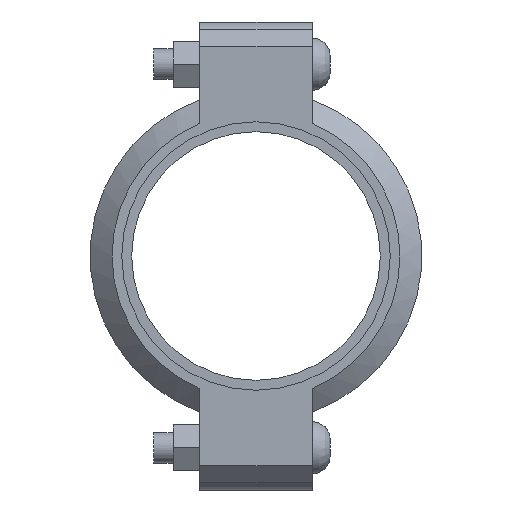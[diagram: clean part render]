
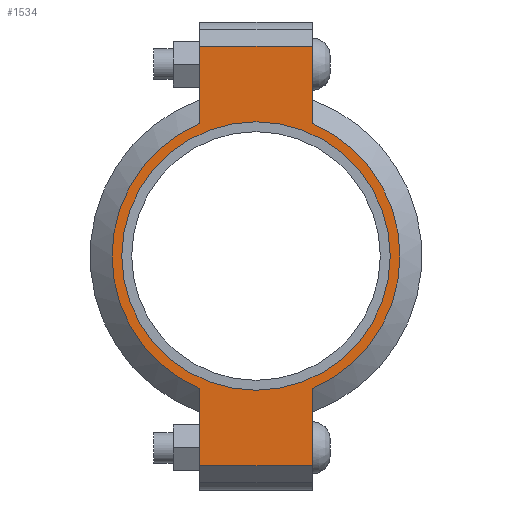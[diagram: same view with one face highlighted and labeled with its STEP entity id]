
A CAD part, left-side view. The second image highlights one B-rep face of the part: STEP entity #1534.
In plain terms, the highlighted planar face has unit normal (-1, 0, 0) as drawn and (0, 0, 1) by its records, which use the part's own axes.
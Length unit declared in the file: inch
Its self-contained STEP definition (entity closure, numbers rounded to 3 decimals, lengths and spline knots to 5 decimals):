
#158=LINE('',#2677,#251);
#166=LINE('',#2713,#259);
#173=LINE('',#2734,#266);
#182=LINE('',#2766,#275);
#183=LINE('',#2770,#276);
#184=LINE('',#2772,#277);
#251=VECTOR('',#2185,0.3937);
#259=VECTOR('',#2201,0.3937);
#266=VECTOR('',#2220,0.3937);
#275=VECTOR('',#2245,0.3937);
#276=VECTOR('',#2250,0.3937);
#277=VECTOR('',#2251,0.3937);
#333=FACE_BOUND('',#511,.T.);
#405=FACE_OUTER_BOUND('',#510,.T.);
#510=EDGE_LOOP('',(#1275,#1276,#1277,#1278,#1279,#1280,#1281,#1282));
#511=EDGE_LOOP('',(#1283));
#583=CIRCLE('',#1753,2.75);
#609=CIRCLE('',#1812,2.95);
#610=CIRCLE('',#1813,2.95);
#675=VERTEX_POINT('',#2493);
#718=VERTEX_POINT('',#2674);
#719=VERTEX_POINT('',#2676);
#730=VERTEX_POINT('',#2708);
#731=VERTEX_POINT('',#2712);
#738=VERTEX_POINT('',#2731);
#739=VERTEX_POINT('',#2733);
#749=VERTEX_POINT('',#2769);
#750=VERTEX_POINT('',#2771);
#831=EDGE_CURVE('',#675,#675,#583,.T.);
#892=EDGE_CURVE('',#719,#718,#158,.T.);
#906=EDGE_CURVE('',#731,#730,#166,.T.);
#916=EDGE_CURVE('',#739,#738,#173,.T.);
#931=EDGE_CURVE('',#731,#718,#182,.T.);
#932=EDGE_CURVE('',#730,#739,#609,.T.);
#933=EDGE_CURVE('',#749,#738,#183,.T.);
#934=EDGE_CURVE('',#749,#750,#184,.T.);
#935=EDGE_CURVE('',#750,#719,#610,.T.);
#1275=ORIENTED_EDGE('',*,*,#931,.F.);
#1276=ORIENTED_EDGE('',*,*,#906,.T.);
#1277=ORIENTED_EDGE('',*,*,#932,.T.);
#1278=ORIENTED_EDGE('',*,*,#916,.T.);
#1279=ORIENTED_EDGE('',*,*,#933,.F.);
#1280=ORIENTED_EDGE('',*,*,#934,.T.);
#1281=ORIENTED_EDGE('',*,*,#935,.T.);
#1282=ORIENTED_EDGE('',*,*,#892,.T.);
#1283=ORIENTED_EDGE('',*,*,#831,.T.);
#1376=PLANE('',#1811);
#1534=ADVANCED_FACE('',(#405,#333),#1376,.T.);
#1753=AXIS2_PLACEMENT_3D('',#2495,#2061,#2062);
#1811=AXIS2_PLACEMENT_3D('',#2767,#2246,#2247);
#1812=AXIS2_PLACEMENT_3D('',#2768,#2248,#2249);
#1813=AXIS2_PLACEMENT_3D('',#2773,#2252,#2253);
#2061=DIRECTION('center_axis',(0.,0.,-1.));
#2062=DIRECTION('ref_axis',(-1.,0.,0.));
#2185=DIRECTION('',(-1.,0.,0.));
#2201=DIRECTION('',(1.,0.,0.));
#2220=DIRECTION('',(1.,0.,0.));
#2245=DIRECTION('',(0.,1.,0.));
#2246=DIRECTION('center_axis',(0.,0.,1.));
#2247=DIRECTION('ref_axis',(1.,0.,0.));
#2248=DIRECTION('center_axis',(0.,0.,1.));
#2249=DIRECTION('ref_axis',(-1.,0.,0.));
#2250=DIRECTION('',(0.,-1.,0.));
#2251=DIRECTION('',(-1.,0.,0.));
#2252=DIRECTION('center_axis',(0.,0.,1.));
#2253=DIRECTION('ref_axis',(-1.,0.,0.));
#2493=CARTESIAN_POINT('',(2.75,0.,1.065));
#2495=CARTESIAN_POINT('Origin',(0.,0.,1.065));
#2674=CARTESIAN_POINT('',(-4.295,1.15,1.065));
#2676=CARTESIAN_POINT('',(-2.71662,1.15,1.065));
#2677=CARTESIAN_POINT('',(-4.795,1.15,1.065));
#2708=CARTESIAN_POINT('',(-2.71662,-1.15,1.065));
#2712=CARTESIAN_POINT('',(-4.295,-1.15,1.065));
#2713=CARTESIAN_POINT('',(4.795,-1.15,1.065));
#2731=CARTESIAN_POINT('',(4.295,-1.15,1.065));
#2733=CARTESIAN_POINT('',(2.71662,-1.15,1.065));
#2734=CARTESIAN_POINT('',(4.795,-1.15,1.065));
#2766=CARTESIAN_POINT('',(-4.295,0.575,1.065));
#2767=CARTESIAN_POINT('Origin',(0.,0.,1.065));
#2768=CARTESIAN_POINT('Origin',(0.,0.,1.065));
#2769=CARTESIAN_POINT('',(4.295,1.15,1.065));
#2770=CARTESIAN_POINT('',(4.295,-0.575,1.065));
#2771=CARTESIAN_POINT('',(2.71662,1.15,1.065));
#2772=CARTESIAN_POINT('',(-4.795,1.15,1.065));
#2773=CARTESIAN_POINT('Origin',(0.,0.,1.065));
